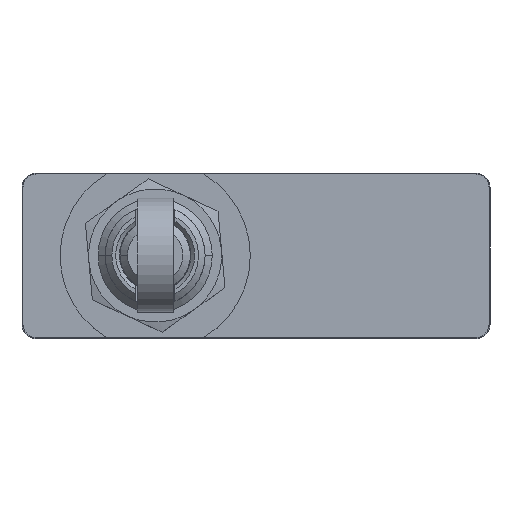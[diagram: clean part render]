
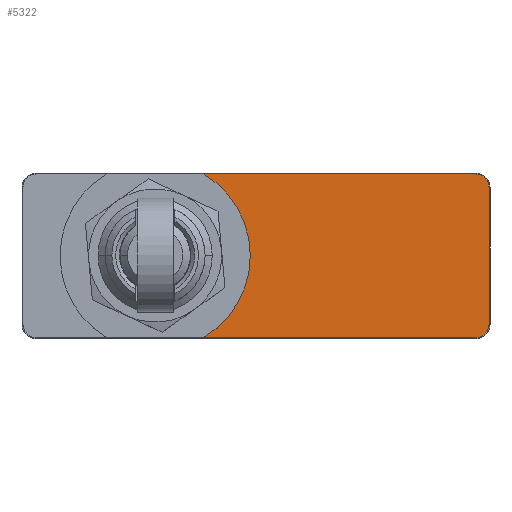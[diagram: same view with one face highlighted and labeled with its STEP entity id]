
A CAD part, top view. The second image highlights one B-rep face of the part: STEP entity #5322.
In plain terms, the highlighted planar face has unit normal (0, 0, 1).
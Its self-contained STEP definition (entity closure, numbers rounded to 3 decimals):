
#729 = DIRECTION ( 'NONE',  ( 0., 0., 1. ) ) ;
#744 = VERTEX_POINT ( 'NONE', #2381 ) ;
#790 = VERTEX_POINT ( 'NONE', #6784 ) ;
#1437 = EDGE_LOOP ( 'NONE', ( #14121, #4526, #3456, #11308, #3626, #5067 ) ) ;
#1506 = EDGE_CURVE ( 'NONE', #9505, #11633, #5590, .T. ) ;
#1779 = CARTESIAN_POINT ( 'NONE',  ( 23.1, 8.6, 18.4 ) ) ;
#2320 = CARTESIAN_POINT ( 'NONE',  ( 23.1, -7.2, 18.4 ) ) ;
#2370 = EDGE_CURVE ( 'NONE', #8885, #9505, #5042, .T. ) ;
#2381 = CARTESIAN_POINT ( 'NONE',  ( 23.1, -8.6, 18.4 ) ) ;
#2593 = VECTOR ( 'NONE', #2885, 1000. ) ;
#2808 = AXIS2_PLACEMENT_3D ( 'NONE', #11716, #5059, #12836 ) ;
#2885 = DIRECTION ( 'NONE',  ( -1., 0., 0. ) ) ;
#3428 = PLANE ( 'NONE',  #11355 ) ;
#3456 = ORIENTED_EDGE ( 'NONE', *, *, #11322, .T. ) ;
#3461 = EDGE_CURVE ( 'NONE', #790, #8885, #9366, .T. ) ;
#3626 = ORIENTED_EDGE ( 'NONE', *, *, #2370, .T. ) ;
#4526 = ORIENTED_EDGE ( 'NONE', *, *, #10761, .T. ) ;
#4567 = DIRECTION ( 'NONE',  ( 0., 0., 1. ) ) ;
#4683 = AXIS2_PLACEMENT_3D ( 'NONE', #5114, #12901, #6229 ) ;
#5042 = CIRCLE ( 'NONE', #7078, 1.4 ) ;
#5059 = DIRECTION ( 'NONE',  ( 0., 0., 1. ) ) ;
#5062 = CARTESIAN_POINT ( 'NONE',  ( -5.497, -8.6, 18.4 ) ) ;
#5067 = ORIENTED_EDGE ( 'NONE', *, *, #1506, .T. ) ;
#5114 = CARTESIAN_POINT ( 'NONE',  ( 23.1, -7.2, 18.4 ) ) ;
#5322 = ADVANCED_FACE ( 'NONE', ( #10516 ), #3428, .T. ) ;
#5590 = LINE ( 'NONE', #1779, #2593 ) ;
#5853 = CARTESIAN_POINT ( 'NONE',  ( 23.1, 8.6, 18.4 ) ) ;
#6229 = DIRECTION ( 'NONE',  ( 1., 0., 0. ) ) ;
#6417 = VECTOR ( 'NONE', #9301, 1000. ) ;
#6571 = CARTESIAN_POINT ( 'NONE',  ( -23.1, -8.6, 18.4 ) ) ;
#6784 = CARTESIAN_POINT ( 'NONE',  ( 24.5, -7.2, 18.4 ) ) ;
#7078 = AXIS2_PLACEMENT_3D ( 'NONE', #7397, #729, #8507 ) ;
#7383 = CARTESIAN_POINT ( 'NONE',  ( 24.5, 7.2, 18.4 ) ) ;
#7397 = CARTESIAN_POINT ( 'NONE',  ( 23.1, 7.2, 18.4 ) ) ;
#7687 = DIRECTION ( 'NONE',  ( 1., 0., 0. ) ) ;
#8185 = CARTESIAN_POINT ( 'NONE',  ( 24.5, -7.2, 18.4 ) ) ;
#8470 = LINE ( 'NONE', #6571, #13691 ) ;
#8507 = DIRECTION ( 'NONE',  ( 1., 0., 0. ) ) ;
#8885 = VERTEX_POINT ( 'NONE', #7383 ) ;
#9301 = DIRECTION ( 'NONE',  ( 0., 1., 0. ) ) ;
#9366 = LINE ( 'NONE', #8185, #6417 ) ;
#9505 = VERTEX_POINT ( 'NONE', #5853 ) ;
#10516 = FACE_OUTER_BOUND ( 'NONE', #1437, .T. ) ;
#10761 = EDGE_CURVE ( 'NONE', #11309, #744, #8470, .T. ) ;
#10890 = CIRCLE ( 'NONE', #2808, 10. ) ;
#11308 = ORIENTED_EDGE ( 'NONE', *, *, #3461, .T. ) ;
#11309 = VERTEX_POINT ( 'NONE', #5062 ) ;
#11322 = EDGE_CURVE ( 'NONE', #744, #790, #14389, .T. ) ;
#11355 = AXIS2_PLACEMENT_3D ( 'NONE', #2320, #4567, #12354 ) ;
#11633 = VERTEX_POINT ( 'NONE', #12244 ) ;
#11716 = CARTESIAN_POINT ( 'NONE',  ( -10.6, 0., 18.4 ) ) ;
#12244 = CARTESIAN_POINT ( 'NONE',  ( -5.497, 8.6, 18.4 ) ) ;
#12354 = DIRECTION ( 'NONE',  ( 1., 0., 0. ) ) ;
#12836 = DIRECTION ( 'NONE',  ( 1., 0., 0. ) ) ;
#12848 = EDGE_CURVE ( 'NONE', #11309, #11633, #10890, .T. ) ;
#12901 = DIRECTION ( 'NONE',  ( 0., 0., 1. ) ) ;
#13691 = VECTOR ( 'NONE', #7687, 1000. ) ;
#14121 = ORIENTED_EDGE ( 'NONE', *, *, #12848, .F. ) ;
#14389 = CIRCLE ( 'NONE', #4683, 1.4 ) ;
